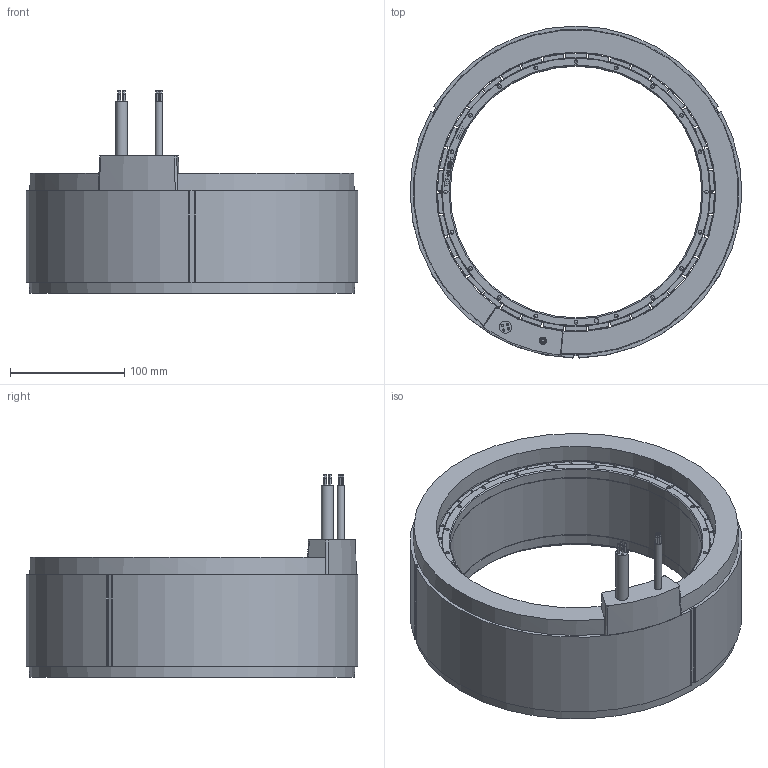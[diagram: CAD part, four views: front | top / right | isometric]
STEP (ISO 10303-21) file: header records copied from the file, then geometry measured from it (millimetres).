
FILE_DESCRIPTION(/* description */ ('Torque_QTR_78_60_Y_Kit_CAD_190315.stp'),/* implementation_level */ '2;1');
FILE_NAME(/* name */ 'Torque_QTL_290_105_N_Kit_CAD_190320',/* time_stamp */ '2019-03-20T15:25:18+01:00',/* author */ ('Tecnotion'),/* organization */ ('Tecnotion'),/* preprocessor_version */ 'ST-DEVELOPER v16.7',/* originating_system */ 'DEX',/* authorisation */ $);
FILE_SCHEMA (('TECHNICAL_DATA_PACKAGING','AUTOMOTIVE_DESIGN {1 0 10303 214 3 1 1}'));
Length unit declared in the file: millimetre
Products named in the file (2): Torque_QTL_290_105_N_Kit_CAD_190320
Assembly tree (1 placements, depth 2):
  Torque_QTL_290_105_N_Kit_CAD_190320
    Torque_QTL_290_105_N_Kit_CAD_190320
Bounding box: 289.98 x 289.97 x 177 mm (x, y, z)
Surface area: 467373.2 mm2 (no closed solid volume)
Topology: 0 solids, 49 shells, 816 faces, 2485 edges, 1426 vertices
Faces by surface type: cylinder 540, plane 246, cone 25, bspline 5
Full cylindrical faces by diameter (mm): 1.35 x6, 1.5 x6, 1.598 x4, 2 x4, 3.242 x40, 4 x2, 6.4 x1, 10.6 x1, 220 x2, 221 x1, 233.9 x1, 244.4 x1
Entity records: 27157 total; most frequent: CARTESIAN_POINT 5153, DIRECTION 4815, ORIENTED_EDGE 3315, EDGE_CURVE 2332, AXIS2_PLACEMENT_3D 1910, VERTEX_POINT 1385, CIRCLE 1093, LINE 995
